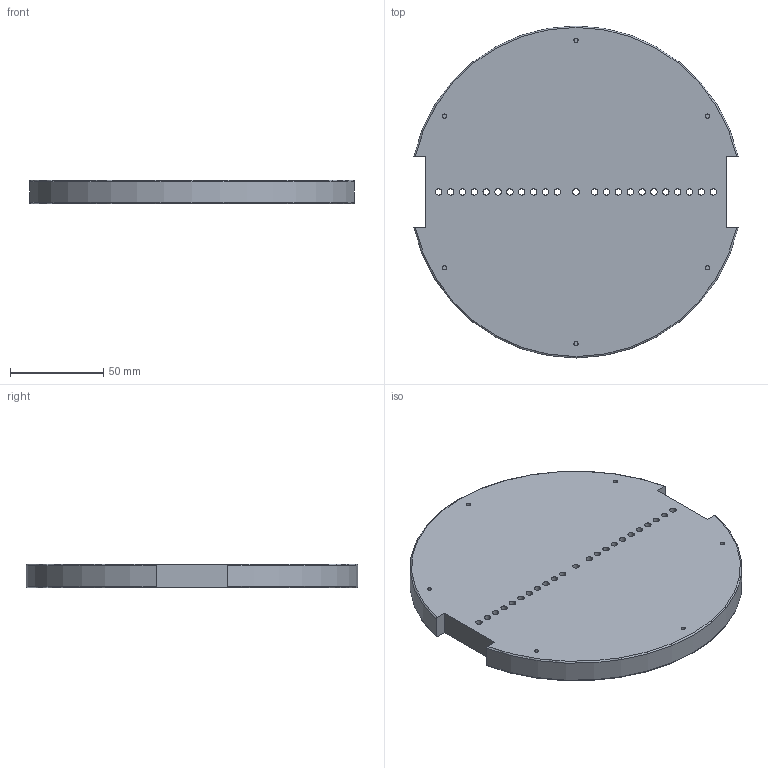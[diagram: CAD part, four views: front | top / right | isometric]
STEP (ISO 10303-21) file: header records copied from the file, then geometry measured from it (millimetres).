
FILE_DESCRIPTION (( 'STEP AP214' ), '1' );
FILE_NAME ('top guide.STEP', '2019-10-04T21:12:14', ( 'John' ), ( 'Not Good' ), 'SwSTEP 2.0', 'SolidWorks 2008', '' );
FILE_SCHEMA (( 'AUTOMOTIVE_DESIGN' ));
Length unit declared in the file: inch
Products named in the file (1): top guide
Bounding box: 173.67 x 177.8 x 12.7 mm (x, y, z)
Volume: 304842.7 mm3; surface area: 58618.1 mm2
Topology: 1 solids, 1 shells, 78 faces, 210 edges, 140 vertices
Faces by surface type: cylinder 60, plane 14, torus 4
Entity records: 2755 total; most frequent: CARTESIAN_POINT 485, DIRECTION 484, ORIENTED_EDGE 420, EDGE_CURVE 210, AXIS2_PLACEMENT_3D 203, VERTEX_POINT 140, EDGE_LOOP 130, CIRCLE 124
